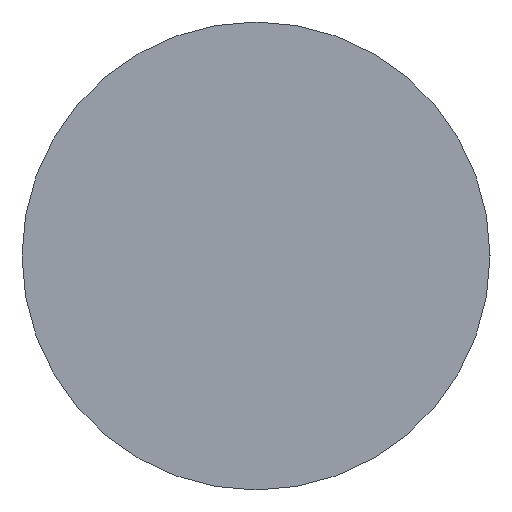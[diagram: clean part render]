
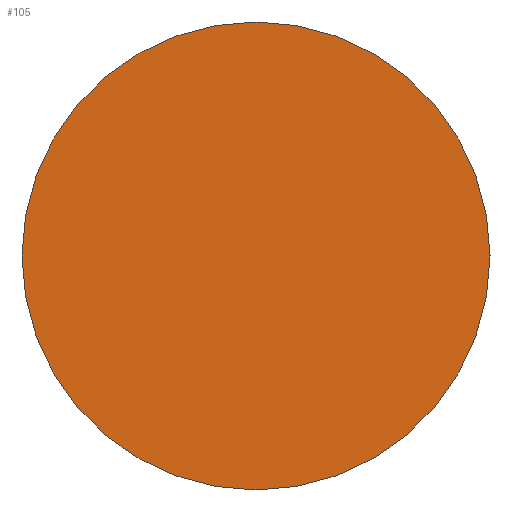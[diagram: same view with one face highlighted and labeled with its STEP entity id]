
A CAD part, left-side view. The second image highlights one B-rep face of the part: STEP entity #105.
In plain terms, the highlighted planar face has unit normal (-1, 0, 0).
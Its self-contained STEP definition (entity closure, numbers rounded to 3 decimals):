
#22 = VERTEX_POINT('',#23);
#23 = CARTESIAN_POINT('',(-1.5,-15.,12.));
#32 = CYLINDRICAL_SURFACE('',#33,1.);
#33 = AXIS2_PLACEMENT_3D('',#34,#35,#36);
#34 = CARTESIAN_POINT('',(-1.5,-16.,12.));
#35 = DIRECTION('',(-1.,-0.,-0.));
#36 = DIRECTION('',(0.,1.,0.));
#79 = EDGE_CURVE('',#22,#22,#80,.T.);
#80 = SURFACE_CURVE('',#81,(#86,#93),.PCURVE_S1.);
#81 = CIRCLE('',#82,1.);
#82 = AXIS2_PLACEMENT_3D('',#83,#84,#85);
#83 = CARTESIAN_POINT('',(-1.5,-16.,12.));
#84 = DIRECTION('',(1.,0.,0.));
#85 = DIRECTION('',(0.,1.,0.));
#86 = PCURVE('',#32,#87);
#87 = DEFINITIONAL_REPRESENTATION('',(#88),#92);
#88 = LINE('',#89,#90);
#89 = CARTESIAN_POINT('',(-0.,0.));
#90 = VECTOR('',#91,1.);
#91 = DIRECTION('',(-1.,0.));
#92 = ( GEOMETRIC_REPRESENTATION_CONTEXT(2) 
PARAMETRIC_REPRESENTATION_CONTEXT() REPRESENTATION_CONTEXT('2D SPACE',''
  ) );
#93 = PCURVE('',#94,#99);
#94 = PLANE('',#95);
#95 = AXIS2_PLACEMENT_3D('',#96,#97,#98);
#96 = CARTESIAN_POINT('',(-1.5,-16.,12.));
#97 = DIRECTION('',(1.,0.,0.));
#98 = DIRECTION('',(-0.,0.,1.));
#99 = DEFINITIONAL_REPRESENTATION('',(#100),#104);
#100 = CIRCLE('',#101,1.);
#101 = AXIS2_PLACEMENT_2D('',#102,#103);
#102 = CARTESIAN_POINT('',(0.,0.));
#103 = DIRECTION('',(0.,-1.));
#104 = ( GEOMETRIC_REPRESENTATION_CONTEXT(2) 
PARAMETRIC_REPRESENTATION_CONTEXT() REPRESENTATION_CONTEXT('2D SPACE',''
  ) );
#105 = ADVANCED_FACE('',(#106),#94,.F.);
#106 = FACE_BOUND('',#107,.F.);
#107 = EDGE_LOOP('',(#108));
#108 = ORIENTED_EDGE('',*,*,#79,.T.);
